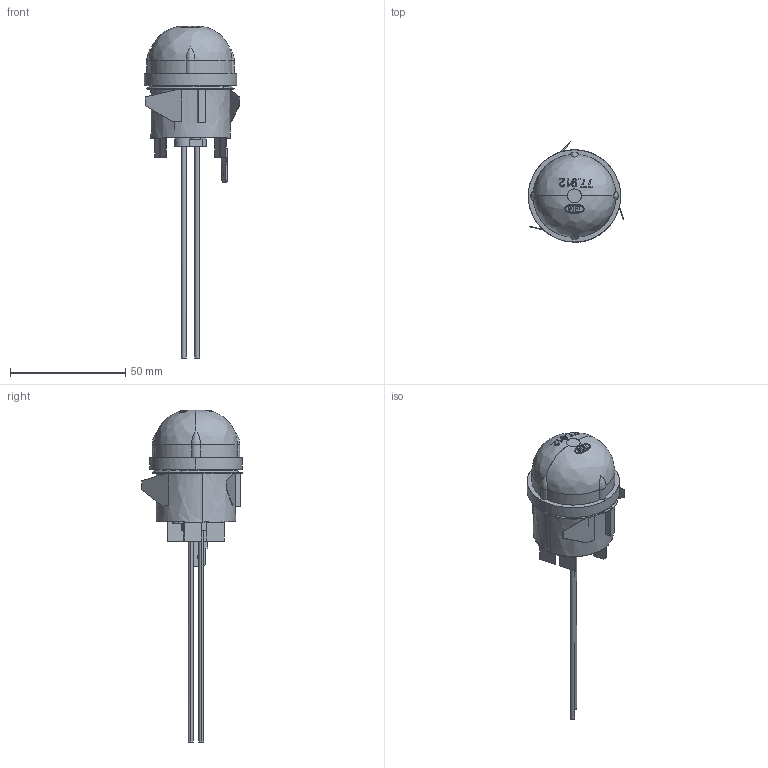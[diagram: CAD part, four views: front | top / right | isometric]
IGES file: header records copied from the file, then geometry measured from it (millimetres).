
Global section: file name: C:\coretechnologie2012\in/00IYZ07Y03.igs; native system: CT CoreTechnologie 3D Evolution; preprocessor: 2006; author: assmuth; date: 1130208.114806; units: millimetre
Bounding box: 41.41 x 43.8 x 144.19 mm (x, y, z)
Surface area: 19442.8 mm2 (no closed solid volume)
Topology: 0 solids, 0 shells, 356 faces, 1775 edges, 1766 vertices
Faces by surface type: bspline 356
